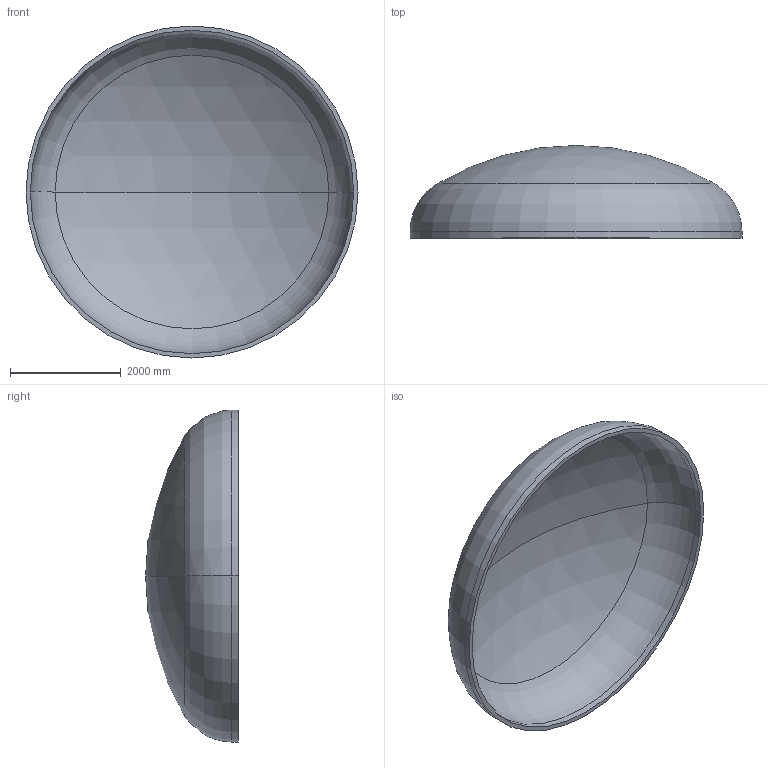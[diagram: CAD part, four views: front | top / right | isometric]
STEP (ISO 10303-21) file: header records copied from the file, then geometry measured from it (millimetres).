
FILE_DESCRIPTION (( 'STEP AP203' ), '1' );
FILE_NAME ('DIN 28013 Korbbogenform_-_Boden DIN 28013 - 6000 x 120 - I - s=78.step', '2016-07-04T10:38:10', ( '' ), ( '' ), 'SwSTEP 2.0', 'SolidWorks 2013', '' );
FILE_SCHEMA (( 'CONFIG_CONTROL_DESIGN' ));
Length unit declared in the file: millimetre
Products named in the file (1): DIN 28013 Korbbogenform_-_Boden DIN 28013 - 6000 x 120 - I - s=78
Bounding box: 6000 x 1677.21 x 6000 mm (x, y, z)
Volume: 3177186757.2 mm3; surface area: 82930190.8 mm2
Topology: 1 solids, 1 shells, 13 faces, 24 edges, 14 vertices
Faces by surface type: torus 4, cylinder 4, sphere 4, plane 1
Entity records: 407 total; most frequent: DIRECTION 72, CARTESIAN_POINT 52, ORIENTED_EDGE 48, AXIS2_PLACEMENT_3D 34, EDGE_CURVE 24, CIRCLE 20, VERTEX_POINT 14, EDGE_LOOP 14
